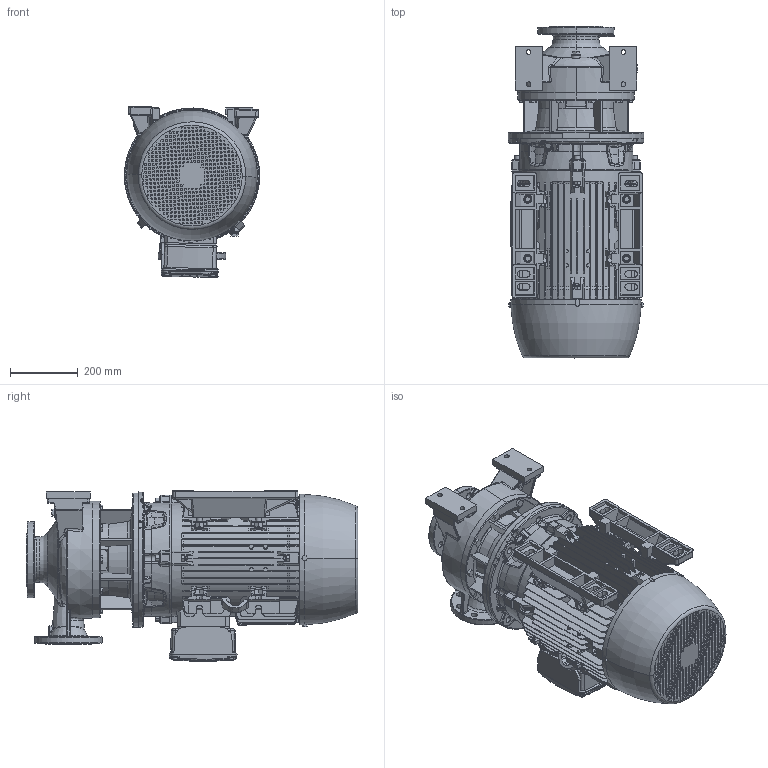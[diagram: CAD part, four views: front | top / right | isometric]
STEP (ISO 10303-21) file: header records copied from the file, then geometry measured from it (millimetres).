
FILE_DESCRIPTION (( 'STEP AP214' ), '1' );
FILE_NAME ('3LS 80-200_30.0 & 37_(200ML)_W21.STEP', '2025-11-17T22:21:01', ( '' ), ( '' ), 'SwSTEP 2.0', 'SolidWorks 2019', '' );
FILE_SCHEMA (( 'AUTOMOTIVE_DESIGN' ));
Length unit declared in the file: inch
Products named in the file (3): 3LS 80-200_30.0 & 37_(200ML)_W21; 200M_L ALIE3_W21T_B35; 80-200_30
Assembly tree (2 placements, depth 2):
  3LS 80-200_30.0 & 37_(200ML)_W21
    80-200_30
    200M_L ALIE3_W21T_B35
Bounding box: 399.97 x 980.8 x 505.59 mm (x, y, z)
Volume: 87462094.4 mm3; surface area: 4293205.6 mm2
Topology: 24 solids, 42 shells, 6621 faces, 16957 edges, 10817 vertices
Faces by surface type: plane 4035, bspline 1060, cylinder 842, cone 493, torus 170, sphere 21
Entity records: 351378 total; most frequent: CARTESIAN_POINT 115677, ORIENTED_EDGE 33688, DIRECTION 26520, EDGE_CURVE 16844, VERTEX_POINT 10813, VECTOR 10342, LINE 10342, AXIS2_PLACEMENT_3D 8089
